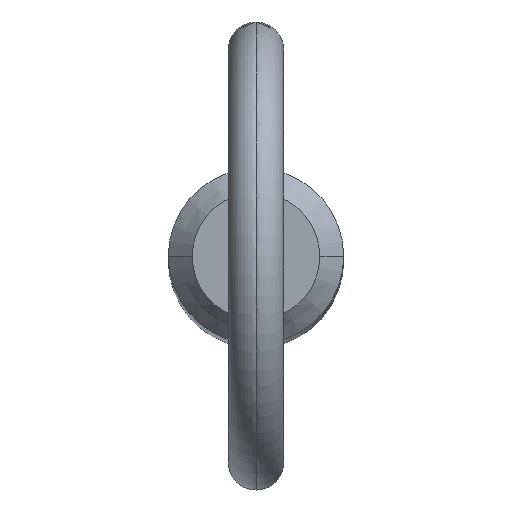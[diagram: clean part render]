
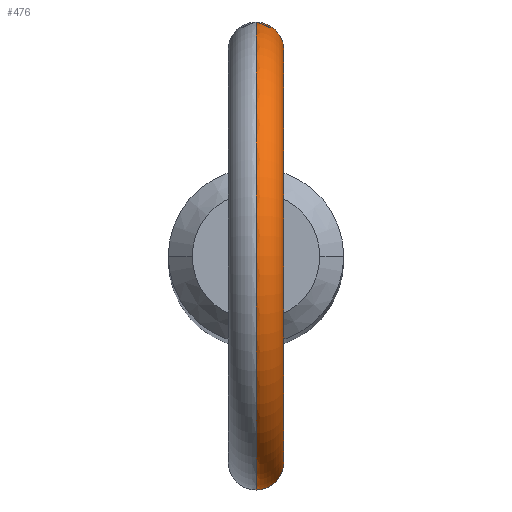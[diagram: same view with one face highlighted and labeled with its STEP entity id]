
A CAD part, top view. The second image highlights one B-rep face of the part: STEP entity #476.
In plain terms, the highlighted toroidal (fillet/blend) face has major radius 11.2 mm and minor radius 1.5 mm.
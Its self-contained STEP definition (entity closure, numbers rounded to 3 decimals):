
#1 = CARTESIAN_POINT ( 'NONE',  ( 1.177, 4.613, 118.275 ) ) ;
#5 = CARTESIAN_POINT ( 'NONE',  ( 1.239, 4.596, 118.359 ) ) ;
#7 = CARTESIAN_POINT ( 'NONE',  ( 0.996, 4.655, 120.566 ) ) ;
#13 = B_SPLINE_CURVE_WITH_KNOTS ( 'NONE', 3,
 ( #282, #116, #203, #290, #413, #126, #493, #1, #5, #289, #172, #329, #293, #499, #41, #42, #44, #7, #291, #326, #500, #176, #452, #371 ),
 .UNSPECIFIED., .F., .F.,
 ( 4, 2, 2, 2, 2, 2, 2, 2, 2, 2, 2, 4 ),
 ( 0.001, 0.001, 0.001, 0.002, 0.002, 0.002, 0.003, 0.004, 0.004, 0.005, 0.005, 0.006 ),
 .UNSPECIFIED. ) ;
#23 = CARTESIAN_POINT ( 'NONE',  ( 1.404, -4.548, 119.853 ) ) ;
#27 = ORIENTED_EDGE ( 'NONE', *, *, #512, .F. ) ;
#31 = CARTESIAN_POINT ( 'NONE',  ( 1.499, -4.518, 119.137 ) ) ;
#32 = DIRECTION ( 'NONE',  ( 1., 0., 0. ) ) ;
#36 = EDGE_CURVE ( 'NONE', #103, #166, #131, .T. ) ;
#41 = CARTESIAN_POINT ( 'NONE',  ( 1.441, 4.537, 119.759 ) ) ;
#42 = CARTESIAN_POINT ( 'NONE',  ( 1.292, 4.582, 120.144 ) ) ;
#44 = CARTESIAN_POINT ( 'NONE',  ( 1.188, 4.611, 120.327 ) ) ;
#68 = DIRECTION ( 'NONE',  ( 0., 0., -1. ) ) ;
#72 = CARTESIAN_POINT ( 'NONE',  ( 0., -4.76, 121.048 ) ) ;
#74 = ORIENTED_EDGE ( 'NONE', *, *, #36, .F. ) ;
#76 = CARTESIAN_POINT ( 'NONE',  ( 1.478, -4.525, 119.552 ) ) ;
#94 = CARTESIAN_POINT ( 'NONE',  ( 0., 0., 129.5 ) ) ;
#98 = CARTESIAN_POINT ( 'NONE',  ( 0., 4.76, 121.048 ) ) ;
#103 = VERTEX_POINT ( 'NONE', #527 ) ;
#112 = CARTESIAN_POINT ( 'NONE',  ( 0.687, -4.711, 120.835 ) ) ;
#116 = CARTESIAN_POINT ( 'NONE',  ( 0.104, 4.76, 117.726 ) ) ;
#118 = CARTESIAN_POINT ( 'NONE',  ( 1.473, -4.526, 118.931 ) ) ;
#122 = CARTESIAN_POINT ( 'NONE',  ( 0.105, -4.76, 117.726 ) ) ;
#126 = CARTESIAN_POINT ( 'NONE',  ( 0.795, 4.697, 117.928 ) ) ;
#128 = CIRCLE ( 'NONE', #501, 9.7 ) ;
#131 = B_SPLINE_CURVE_WITH_KNOTS ( 'NONE', 3,
 ( #72, #234, #518, #309, #312, #112, #395, #158, #159, #232, #511, #23, #204, #76, #442, #244, #31, #118, #489, #165, #209, #402, #324, #284, #162, #401, #446, #487, #122, #320 ),
 .UNSPECIFIED., .F., .F.,
 ( 4, 2, 2, 2, 2, 2, 2, 2, 2, 2, 2, 2, 2, 2, 4 ),
 ( 0.004, 0.005, 0.005, 0.005, 0.006, 0.006, 0.007, 0.007, 0.007, 0.007, 0.008, 0.008, 0.009, 0.009, 0.009 ),
 .UNSPECIFIED. ) ;
#139 = AXIS2_PLACEMENT_3D ( 'NONE', #155, #32, #68 ) ;
#141 = EDGE_CURVE ( 'NONE', #477, #217, #13, .T. ) ;
#155 = CARTESIAN_POINT ( 'NONE',  ( 0., 0., 129.5 ) ) ;
#158 = CARTESIAN_POINT ( 'NONE',  ( 0.925, -4.67, 120.639 ) ) ;
#159 = CARTESIAN_POINT ( 'NONE',  ( 0.997, -4.655, 120.564 ) ) ;
#162 = CARTESIAN_POINT ( 'NONE',  ( 0.797, -4.697, 117.929 ) ) ;
#165 = CARTESIAN_POINT ( 'NONE',  ( 1.385, -4.554, 118.632 ) ) ;
#166 = VERTEX_POINT ( 'NONE', #210 ) ;
#172 = CARTESIAN_POINT ( 'NONE',  ( 1.385, 4.554, 118.63 ) ) ;
#176 = CARTESIAN_POINT ( 'NONE',  ( 0.415, 4.745, 120.988 ) ) ;
#189 = EDGE_CURVE ( 'NONE', #477, #166, #490, .T. ) ;
#203 = CARTESIAN_POINT ( 'NONE',  ( 0.207, 4.757, 117.736 ) ) ;
#204 = CARTESIAN_POINT ( 'NONE',  ( 1.434, -4.539, 119.754 ) ) ;
#209 = CARTESIAN_POINT ( 'NONE',  ( 1.344, -4.567, 118.539 ) ) ;
#210 = CARTESIAN_POINT ( 'NONE',  ( 0., -4.76, 117.726 ) ) ;
#217 = VERTEX_POINT ( 'NONE', #98 ) ;
#219 = DIRECTION ( 'NONE',  ( 1., 0., 0. ) ) ;
#232 = CARTESIAN_POINT ( 'NONE',  ( 1.19, -4.611, 120.324 ) ) ;
#234 = CARTESIAN_POINT ( 'NONE',  ( 0.104, -4.76, 121.048 ) ) ;
#238 = EDGE_LOOP ( 'NONE', ( #314, #390, #74, #27 ) ) ;
#243 = CARTESIAN_POINT ( 'NONE',  ( 0., 0., 129.5 ) ) ;
#244 = CARTESIAN_POINT ( 'NONE',  ( 1.503, -4.517, 119.24 ) ) ;
#275 = DIRECTION ( 'NONE',  ( 0., 0., -1. ) ) ;
#282 = CARTESIAN_POINT ( 'NONE',  ( 0., 4.76, 117.726 ) ) ;
#284 = CARTESIAN_POINT ( 'NONE',  ( 0.97, -4.662, 118.05 ) ) ;
#289 = CARTESIAN_POINT ( 'NONE',  ( 1.343, 4.567, 118.537 ) ) ;
#290 = CARTESIAN_POINT ( 'NONE',  ( 0.411, 4.743, 117.777 ) ) ;
#291 = CARTESIAN_POINT ( 'NONE',  ( 0.925, 4.67, 120.64 ) ) ;
#293 = CARTESIAN_POINT ( 'NONE',  ( 1.508, 4.515, 119.137 ) ) ;
#309 = CARTESIAN_POINT ( 'NONE',  ( 0.409, -4.743, 120.978 ) ) ;
#312 = CARTESIAN_POINT ( 'NONE',  ( 0.506, -4.734, 120.937 ) ) ;
#314 = ORIENTED_EDGE ( 'NONE', *, *, #141, .F. ) ;
#320 = CARTESIAN_POINT ( 'NONE',  ( 0., -4.76, 117.726 ) ) ;
#324 = CARTESIAN_POINT ( 'NONE',  ( 1.178, -4.613, 118.276 ) ) ;
#326 = CARTESIAN_POINT ( 'NONE',  ( 0.771, 4.698, 120.775 ) ) ;
#327 = FACE_OUTER_BOUND ( 'NONE', #238, .T. ) ;
#329 = CARTESIAN_POINT ( 'NONE',  ( 1.484, 4.523, 118.928 ) ) ;
#365 = TOROIDAL_SURFACE ( 'NONE', #139, 11.2, 1.5 ) ;
#371 = CARTESIAN_POINT ( 'NONE',  ( 0., 4.76, 121.048 ) ) ;
#380 = DIRECTION ( 'NONE',  ( 0., 0., -1. ) ) ;
#390 = ORIENTED_EDGE ( 'NONE', *, *, #189, .T. ) ;
#395 = CARTESIAN_POINT ( 'NONE',  ( 0.77, -4.698, 120.775 ) ) ;
#401 = CARTESIAN_POINT ( 'NONE',  ( 0.512, -4.733, 117.808 ) ) ;
#402 = CARTESIAN_POINT ( 'NONE',  ( 1.24, -4.596, 118.36 ) ) ;
#413 = CARTESIAN_POINT ( 'NONE',  ( 0.511, 4.733, 117.808 ) ) ;
#442 = CARTESIAN_POINT ( 'NONE',  ( 1.492, -4.52, 119.448 ) ) ;
#446 = CARTESIAN_POINT ( 'NONE',  ( 0.411, -4.743, 117.777 ) ) ;
#452 = CARTESIAN_POINT ( 'NONE',  ( 0.208, 4.76, 121.048 ) ) ;
#474 = CARTESIAN_POINT ( 'NONE',  ( 0., 4.76, 117.726 ) ) ;
#476 = ADVANCED_FACE ( 'NONE', ( #327 ), #365, .T. ) ;
#477 = VERTEX_POINT ( 'NONE', #474 ) ;
#480 = AXIS2_PLACEMENT_3D ( 'NONE', #94, #219, #380 ) ;
#487 = CARTESIAN_POINT ( 'NONE',  ( 0.208, -4.757, 117.736 ) ) ;
#489 = CARTESIAN_POINT ( 'NONE',  ( 1.45, -4.534, 118.828 ) ) ;
#490 = CIRCLE ( 'NONE', #480, 12.7 ) ;
#493 = CARTESIAN_POINT ( 'NONE',  ( 0.968, 4.663, 118.049 ) ) ;
#499 = CARTESIAN_POINT ( 'NONE',  ( 1.487, 4.522, 119.553 ) ) ;
#500 = CARTESIAN_POINT ( 'NONE',  ( 0.685, 4.711, 120.836 ) ) ;
#501 = AXIS2_PLACEMENT_3D ( 'NONE', #243, #519, #275 ) ;
#511 = CARTESIAN_POINT ( 'NONE',  ( 1.293, -4.582, 120.142 ) ) ;
#512 = EDGE_CURVE ( 'NONE', #217, #103, #128, .T. ) ;
#518 = CARTESIAN_POINT ( 'NONE',  ( 0.209, -4.756, 121.034 ) ) ;
#519 = DIRECTION ( 'NONE',  ( 1., 0., 0. ) ) ;
#527 = CARTESIAN_POINT ( 'NONE',  ( 0., -4.76, 121.048 ) ) ;
